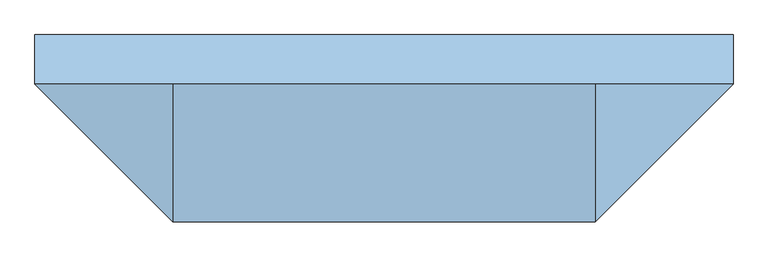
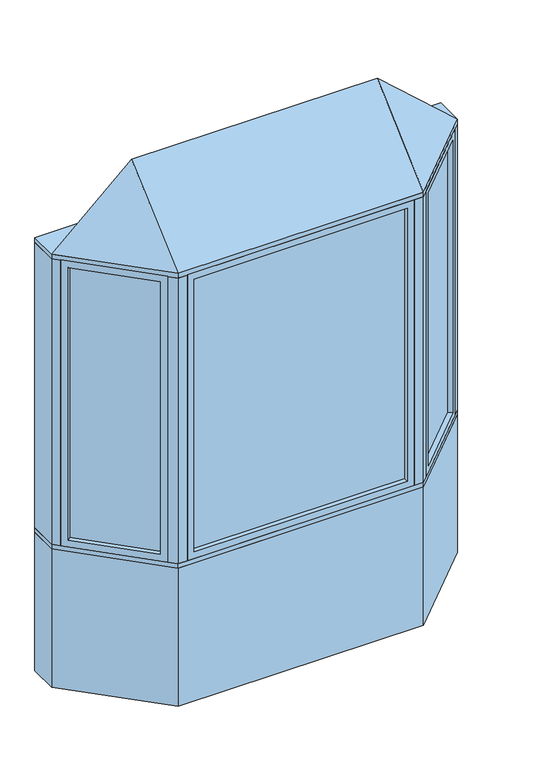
"""IFC4 building model written with IfcOpenShell, lengths in millimetres: window geometry, Pollard_Windows_Tudor Casement Bows and Bays : AML-BAY 45 AFR0616-10-500."""

from ifc_helpers import new_model, si_unit, frame, origin, origin_with_axes, place, context, project, spatial, polyline, outline, extrude, faceted_brep, source, transform, mapped, element, save


def window_99be7a66(model_context):
    return source(origin(), model_context, "Body", "SolidModel", [
        extrude(outline(polyline([(1010.5964271, -104.763169), (684.824814, -430.5347822), (681.2327115, -426.9426797), (1007.0043247, -101.1710666), (1010.5964271, -104.763169)])), frame((0.0, 0.0, 823.1628), z_axis=(0.0, 0.0, 1.0), x_axis=(1.0, 0.0, 0.0)), (0.0, 0.0, 1.0), 1553.6704),
        faceted_brep([(1001.616171, -113.7434252, 835.8628), (1019.5766833, -131.7039374, 835.8628), (1019.5766833, -131.7039374, 2364.1332), (1001.616171, -113.7434252, 2364.1332), (1007.0043247, -101.1710666, 823.1628), (1010.5964271, -104.763169, 823.1628), (1010.5964271, -104.763169, 2376.8332), (1007.0043247, -101.1710666, 2376.8332), (980.0635563, -92.1908105, 835.8628), (998.0240686, -110.1513227, 835.8628), (998.0240686, -110.1513227, 2364.1332), (980.0635563, -92.1908105, 2364.1332), (1044.9369265, -106.3436941, 799.998), (1005.4237996, -66.8305672, 799.998), (1005.4237996, -66.8305672, 2399.998), (1044.9369265, -106.3436941, 2399.998), (711.7655823, -439.5150383, 2364.1332), (693.8050701, -421.5545261, 2364.1332), (684.824814, -430.5347822, 2376.8332), (681.2327115, -426.9426797, 2376.8332), (690.2129677, -417.9624236, 2364.1332), (672.2524554, -400.0019114, 2364.1332), (646.8922121, -425.3621547, 2399.998), (686.4053391, -464.8752816, 2399.998), (711.7655823, -439.5150383, 835.8628), (693.8050701, -421.5545261, 835.8628), (684.824814, -430.5347822, 823.1628), (681.2327115, -426.9426797, 823.1628), (690.2129677, -417.9624236, 835.8628), (672.2524554, -400.0019114, 835.8628), (646.8922121, -425.3621547, 799.998), (686.4053391, -464.8752816, 799.998)], [[[0, 1, 2, 3]], [[4, 5, 6, 7]], [[8, 9, 10, 11]], [[12, 13, 14, 15]], [[3, 2, 16, 17]], [[7, 6, 18, 19]], [[11, 10, 20, 21]], [[15, 14, 22, 23]], [[17, 16, 24, 25]], [[19, 18, 26, 27]], [[21, 20, 28, 29]], [[23, 22, 30, 31]], [[25, 24, 1, 0]], [[5, 26, 18, 6], [3, 17, 25, 0]], [[27, 26, 5, 4]], [[7, 19, 27, 4], [9, 28, 20, 10]], [[29, 28, 9, 8]], [[13, 30, 22, 14], [11, 21, 29, 8]], [[31, 30, 13, 12]], [[15, 23, 31, 12], [1, 24, 16, 2]]]),
        extrude(outline(polyline([(-684.824814, -430.5347822), (-1010.5964271, -104.763169), (-1007.0043247, -101.1710666), (-681.2327115, -426.9426797), (-684.824814, -430.5347822)])), frame((0.0, 0.0, 823.1628), z_axis=(0.0, 0.0, 1.0), x_axis=(1.0, 0.0, 0.0)), (0.0, 0.0, 1.0), 1553.6704),
        faceted_brep([(-690.2129677, -417.9624236, 2364.1332), (-672.2524554, -400.0019114, 2364.1332), (-672.2524554, -400.0019114, 835.8628), (-690.2129677, -417.9624236, 835.8628), (-684.824814, -430.5347822, 2376.8332), (-681.2327115, -426.9426797, 2376.8332), (-681.2327115, -426.9426797, 823.1628), (-684.824814, -430.5347822, 823.1628), (-711.7655823, -439.5150383, 2364.1332), (-693.8050701, -421.5545261, 2364.1332), (-693.8050701, -421.5545261, 835.8628), (-711.7655823, -439.5150383, 835.8628), (-646.8922121, -425.3621547, 2399.998), (-686.4053391, -464.8752816, 2399.998), (-686.4053391, -464.8752816, 799.998), (-646.8922121, -425.3621547, 799.998), (-980.0635563, -92.1908105, 835.8628), (-998.0240686, -110.1513227, 835.8628), (-1007.0043247, -101.1710666, 823.1628), (-1010.5964271, -104.763169, 823.1628), (-1001.616171, -113.7434252, 835.8628), (-1019.5766833, -131.7039374, 835.8628), (-1044.9369265, -106.3436941, 799.998), (-1005.4237996, -66.8305672, 799.998), (-980.0635563, -92.1908105, 2364.1332), (-998.0240686, -110.1513227, 2364.1332), (-1007.0043247, -101.1710666, 2376.8332), (-1010.5964271, -104.763169, 2376.8332), (-1001.616171, -113.7434252, 2364.1332), (-1019.5766833, -131.7039374, 2364.1332), (-1044.9369265, -106.3436941, 2399.998), (-1005.4237996, -66.8305672, 2399.998)], [[[0, 1, 2, 3]], [[4, 5, 6, 7]], [[8, 9, 10, 11]], [[12, 13, 14, 15]], [[3, 2, 16, 17]], [[7, 6, 18, 19]], [[11, 10, 20, 21]], [[15, 14, 22, 23]], [[17, 16, 24, 25]], [[19, 18, 26, 27]], [[21, 20, 28, 29]], [[23, 22, 30, 31]], [[15, 23, 31, 12], [1, 24, 16, 2]], [[25, 24, 1, 0]], [[5, 26, 18, 6], [3, 17, 25, 0]], [[27, 26, 5, 4]], [[7, 19, 27, 4], [9, 28, 20, 10]], [[29, 28, 9, 8]], [[13, 30, 22, 14], [11, 21, 29, 8]], [[31, 30, 13, 12]]]),
        extrude(outline(polyline([(577.8852, -474.8306207), (-577.8852, -474.8306207), (-577.8852, -469.7506207), (577.8852, -469.7506207), (577.8852, -474.8306207)])), frame((0.0, 0.0, 823.1628), z_axis=(0.0, 0.0, 1.0), x_axis=(1.0, 0.0, 0.0)), (0.0, 0.0, 1.0), 1553.6704),
        faceted_brep([(565.1852, -474.8306207, 835.8628), (565.1852, -500.2306207, 835.8628), (565.1852, -500.2306207, 2364.1332), (565.1852, -474.8306207, 2364.1332), (577.8852, -469.7506207, 823.1628), (577.8852, -474.8306207, 823.1628), (577.8852, -474.8306207, 2376.8332), (577.8852, -469.7506207, 2376.8332), (565.1852, -444.3506207, 835.8628), (565.1852, -469.7506207, 835.8628), (565.1852, -469.7506207, 2364.1332), (565.1852, -444.3506207, 2364.1332), (601.05, -500.2306207, 799.998), (601.05, -444.3506207, 799.998), (601.05, -444.3506207, 2399.998), (601.05, -500.2306207, 2399.998), (-565.1852, -500.2306207, 2364.1332), (-565.1852, -474.8306207, 2364.1332), (-577.8852, -474.8306207, 2376.8332), (-577.8852, -469.7506207, 2376.8332), (-565.1852, -469.7506207, 2364.1332), (-565.1852, -444.3506207, 2364.1332), (-601.05, -444.3506207, 2399.998), (-601.05, -500.2306207, 2399.998), (-565.1852, -500.2306207, 835.8628), (-565.1852, -474.8306207, 835.8628), (-577.8852, -474.8306207, 823.1628), (-577.8852, -469.7506207, 823.1628), (-565.1852, -469.7506207, 835.8628), (-565.1852, -444.3506207, 835.8628), (-601.05, -444.3506207, 799.998), (-601.05, -500.2306207, 799.998)], [[[0, 1, 2, 3]], [[4, 5, 6, 7]], [[8, 9, 10, 11]], [[12, 13, 14, 15]], [[3, 2, 16, 17]], [[7, 6, 18, 19]], [[11, 10, 20, 21]], [[15, 14, 22, 23]], [[17, 16, 24, 25]], [[19, 18, 26, 27]], [[21, 20, 28, 29]], [[23, 22, 30, 31]], [[15, 23, 31, 12], [1, 24, 16, 2]], [[25, 24, 1, 0]], [[5, 26, 18, 6], [3, 17, 25, 0]], [[27, 26, 5, 4]], [[7, 19, 27, 4], [9, 28, 20, 10]], [[29, 28, 9, 8]], [[13, 30, 22, 14], [11, 21, 29, 8]], [[31, 30, 13, 12]]]),
        faceted_brep([(1076.5, -74.7806207, 2425.398), (651.05, -500.2306207, 2425.398), (-651.05, -500.2306207, 2425.398), (-1076.5, -74.7806207, 2425.398), (-651.05, -74.7806207, 2806.398), (651.05, -74.7806207, 2806.398)], [[[0, 1, 2, 3]], [[3, 2, 4]], [[2, 1, 5, 4]], [[1, 0, 5]], [[0, 3, 4, 5]]]),
        extrude(outline(polyline([(-1076.5, 77.6193793), (1076.5, 77.6193793), (1076.5, -74.7806207), (651.05, -500.2306207), (-651.05, -500.2306207), (-1076.5, -74.7806207), (-1076.5, 77.6193793)])), frame((0.0, 0.0, 2399.998), z_axis=(0.0, 0.0, 1.0), x_axis=(1.0, 0.0, 0.0)), (0.0, 0.0, 1.0), 25.4),
        extrude(outline(polyline([(-1076.5, -74.7806207), (-1076.5, 77.6193793), (-1013.3738531, 77.6193793), (-1013.3738531, -74.7806207), (-1044.9369265, -106.3436941), (-1076.5, -74.7806207)])), frame((0.0, 0.0, 799.998), z_axis=(0.0, 0.0, 1.0), x_axis=(1.0, 0.0, 0.0)), (0.0, 0.0, 1.0), 1600.0),
        extrude(outline(polyline([(1076.5, 77.6193793), (1076.5, -74.7806207), (1044.9369265, -106.3436941), (1013.3738531, -74.7806207), (1013.3738531, 77.6193793), (1076.5, 77.6193793)])), frame((0.0, 0.0, 799.998), z_axis=(0.0, 0.0, 1.0), x_axis=(1.0, 0.0, 0.0)), (0.0, 0.0, 1.0), 1600.0),
        extrude(outline(polyline([(651.05, -500.2306207), (601.05, -500.2306207), (601.05, -450.2306207), (630.3393219, -450.2306207), (651.05, -429.5199425), (686.4053391, -464.8752816), (651.05, -500.2306207)])), frame((0.0, 0.0, 799.998), z_axis=(0.0, 0.0, 1.0), x_axis=(1.0, 0.0, 0.0)), (0.0, 0.0, 1.0), 1600.0),
        extrude(outline(polyline([(-651.05, -500.2306207), (-686.4053391, -464.8752816), (-651.05, -429.5199425), (-630.3393219, -450.2306207), (-601.05, -450.2306207), (-601.05, -500.2306207), (-651.05, -500.2306207)])), frame((0.0, 0.0, 799.998), z_axis=(0.0, 0.0, 1.0), x_axis=(1.0, 0.0, 0.0)), (0.0, 0.0, 1.0), 1600.0),
        extrude(outline(polyline([(-651.05, -500.2306207), (-1076.5, -74.7806207), (-1076.5, 77.6193793), (-1013.3738531, 77.6193793), (-587.9238531, -347.8306207), (587.9238531, -347.8306207), (1013.3738531, 77.6193793), (1076.5, 77.6193793), (1076.5, -74.7806207), (651.05, -500.2306207), (-651.05, -500.2306207)])), frame((0.0, 0.0, 774.598), z_axis=(0.0, 0.0, 1.0), x_axis=(1.0, 0.0, 0.0)), (0.0, 0.0, 1.0), 25.4),
        extrude(outline(polyline([(-1076.5, -74.7806207), (-1076.5, 77.6193793), (-1013.3738531, 77.6193793), (-587.9238531, -347.8306207), (587.9238531, -347.8306207), (1013.3738531, 77.6193793), (1076.5, 77.6193793), (1076.5, -74.7806207), (651.05, -500.2306207), (-651.05, -500.2306207), (-1076.5, -74.7806207)])), origin_with_axes(), (0.0, 0.0, 1.0), 774.598),
    ])


if __name__ == "__main__":
    model = new_model("IFC4")
    model_context = context("Model", 3, world=origin())
    ifc_project = project(units=[si_unit("LENGTHUNIT", "METRE", prefix="MILLI")], contexts=[model_context])
    site = spatial("IfcSite", under=ifc_project)
    building = spatial("IfcBuilding", under=site)
    placement = place(None, origin())
    window_shape = window_99be7a66(model_context)
    element("IfcWindow", 1, ObjectType="Pollard_Windows_Tudor Casement Bows and Bays : AML-BAY 45 AFR0616-10-500", at=placement, inside=building, context=model_context, shape_type="MappedRepresentation", body=[
        mapped(window_shape, transform((0.0, 0.0, 0.0), x_axis=(1.0, 0.0, 0.0), y_axis=(0.0, 1.0, 0.0), z_axis=(0.0, 0.0, 1.0))),
    ])
    save(model, "model.ifc")
